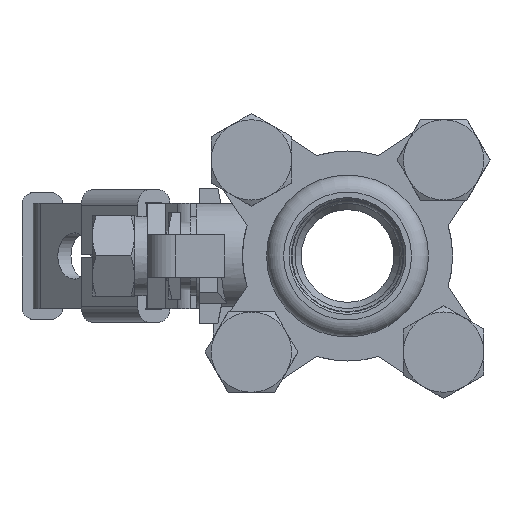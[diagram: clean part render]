
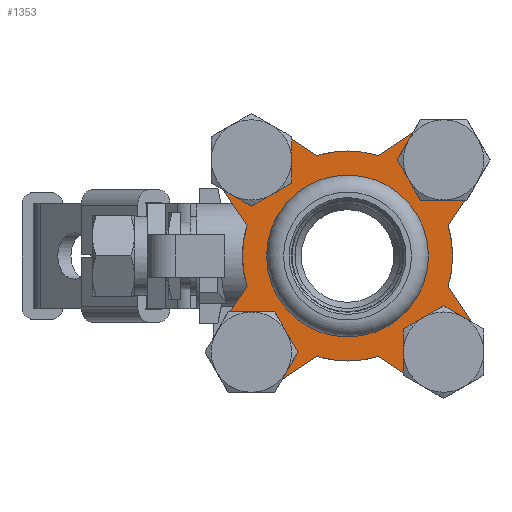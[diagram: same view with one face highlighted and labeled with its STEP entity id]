
A CAD part, front view. The second image highlights one B-rep face of the part: STEP entity #1353.
In plain terms, the highlighted planar face has unit normal (0, -1, 0) as drawn and (0, 0, -1) by its records, which use the part's own axes.
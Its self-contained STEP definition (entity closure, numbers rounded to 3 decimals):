
#1353=ADVANCED_FACE('',(#2604,#2605,#2606,#2607,#2608,#2609),#2610,.T.);
#2604=FACE_OUTER_BOUND('',#3973,.T.);
#2605=FACE_BOUND('',#3974,.T.);
#2606=FACE_BOUND('',#3975,.T.);
#2607=FACE_BOUND('',#3976,.T.);
#2608=FACE_BOUND('',#3977,.T.);
#2609=FACE_BOUND('',#3978,.T.);
#2610=PLANE('',#3979);
#3973=EDGE_LOOP('',(#6165,#6166,#6167,#6168,#6169,#6170,#6171,#6172,#6173,#6174,#6175,#6176,#6177,#6178,#6179,#6180));
#3974=EDGE_LOOP('',(#6181));
#3975=EDGE_LOOP('',(#6182));
#3976=EDGE_LOOP('',(#6183));
#3977=EDGE_LOOP('',(#6184));
#3978=EDGE_LOOP('',(#6185));
#3979=AXIS2_PLACEMENT_3D('',#6186,#6187,#6188);
#6165=ORIENTED_EDGE('',*,*,#8026,.F.);
#6166=ORIENTED_EDGE('',*,*,#8021,.F.);
#6167=ORIENTED_EDGE('',*,*,#8016,.F.);
#6168=ORIENTED_EDGE('',*,*,#8077,.F.);
#6169=ORIENTED_EDGE('',*,*,#8074,.F.);
#6170=ORIENTED_EDGE('',*,*,#8069,.F.);
#6171=ORIENTED_EDGE('',*,*,#8065,.F.);
#6172=ORIENTED_EDGE('',*,*,#8061,.F.);
#6173=ORIENTED_EDGE('',*,*,#8058,.F.);
#6174=ORIENTED_EDGE('',*,*,#8053,.F.);
#6175=ORIENTED_EDGE('',*,*,#8049,.F.);
#6176=ORIENTED_EDGE('',*,*,#8045,.F.);
#6177=ORIENTED_EDGE('',*,*,#8042,.F.);
#6178=ORIENTED_EDGE('',*,*,#8037,.F.);
#6179=ORIENTED_EDGE('',*,*,#8033,.F.);
#6180=ORIENTED_EDGE('',*,*,#8029,.F.);
#6181=ORIENTED_EDGE('',*,*,#8081,.F.);
#6182=ORIENTED_EDGE('',*,*,#8084,.F.);
#6183=ORIENTED_EDGE('',*,*,#8087,.F.);
#6184=ORIENTED_EDGE('',*,*,#8090,.F.);
#6185=ORIENTED_EDGE('',*,*,#8002,.F.);
#6186=CARTESIAN_POINT('',(10.5,0.0,-20.0));
#6187=DIRECTION('',(0.0,0.,-1.0));
#6188=DIRECTION('',(0.0,1.0,0.));
#8002=EDGE_CURVE('',#9346,#9346,#9347,.T.);
#8016=EDGE_CURVE('',#9367,#9368,#9369,.T.);
#8021=EDGE_CURVE('',#9368,#9376,#9377,.T.);
#8026=EDGE_CURVE('',#9376,#9384,#9385,.T.);
#8029=EDGE_CURVE('',#9384,#9388,#9389,.T.);
#8033=EDGE_CURVE('',#9388,#9394,#9395,.T.);
#8037=EDGE_CURVE('',#9394,#9400,#9401,.T.);
#8042=EDGE_CURVE('',#9400,#9408,#9409,.T.);
#8045=EDGE_CURVE('',#9408,#9412,#9413,.T.);
#8049=EDGE_CURVE('',#9412,#9418,#9419,.T.);
#8053=EDGE_CURVE('',#9418,#9424,#9425,.T.);
#8058=EDGE_CURVE('',#9424,#9432,#9433,.T.);
#8061=EDGE_CURVE('',#9432,#9436,#9437,.T.);
#8065=EDGE_CURVE('',#9436,#9442,#9443,.T.);
#8069=EDGE_CURVE('',#9442,#9448,#9449,.T.);
#8074=EDGE_CURVE('',#9448,#9456,#9457,.T.);
#8077=EDGE_CURVE('',#9456,#9367,#9460,.T.);
#8081=EDGE_CURVE('',#9465,#9465,#9466,.T.);
#8084=EDGE_CURVE('',#9470,#9470,#9471,.T.);
#8087=EDGE_CURVE('',#9475,#9475,#9476,.T.);
#8090=EDGE_CURVE('',#9480,#9480,#9481,.T.);
#9346=VERTEX_POINT('',#11548);
#9347=CIRCLE('',#11549,10.5);
#9367=VERTEX_POINT('',#11569);
#9368=VERTEX_POINT('',#11570);
#9369=CIRCLE('',#11571,17.0);
#9376=VERTEX_POINT('',#11580);
#9377=LINE('',#11581,#11582);
#9384=VERTEX_POINT('',#11591);
#9385=CIRCLE('',#11592,6.5);
#9388=VERTEX_POINT('',#11596);
#9389=LINE('',#11597,#11598);
#9394=VERTEX_POINT('',#11605);
#9395=CIRCLE('',#11606,17.);
#9400=VERTEX_POINT('',#11612);
#9401=LINE('',#11613,#11614);
#9408=VERTEX_POINT('',#11623);
#9409=CIRCLE('',#11624,6.5);
#9412=VERTEX_POINT('',#11628);
#9413=LINE('',#11629,#11630);
#9418=VERTEX_POINT('',#11637);
#9419=CIRCLE('',#11638,17.0);
#9424=VERTEX_POINT('',#11644);
#9425=LINE('',#11645,#11646);
#9432=VERTEX_POINT('',#11655);
#9433=CIRCLE('',#11656,6.5);
#9436=VERTEX_POINT('',#11660);
#9437=LINE('',#11661,#11662);
#9442=VERTEX_POINT('',#11669);
#9443=CIRCLE('',#11670,17.0);
#9448=VERTEX_POINT('',#11676);
#9449=LINE('',#11677,#11678);
#9456=VERTEX_POINT('',#11687);
#9457=CIRCLE('',#11688,6.5);
#9460=LINE('',#11692,#11693);
#9465=VERTEX_POINT('',#11699);
#9466=CIRCLE('',#11700,4.15);
#9470=VERTEX_POINT('',#11704);
#9471=CIRCLE('',#11705,4.15);
#9475=VERTEX_POINT('',#11709);
#9476=CIRCLE('',#11710,4.15);
#9480=VERTEX_POINT('',#11714);
#9481=CIRCLE('',#11715,4.15);
#11548=CARTESIAN_POINT('',(0.0,10.5,-20.0));
#11549=AXIS2_PLACEMENT_3D('',#13646,#13647,#13648);
#11569=CARTESIAN_POINT('',(-4.95,-16.263,-20.0));
#11570=CARTESIAN_POINT('',(4.95,-16.263,-20.0));
#11571=AXIS2_PLACEMENT_3D('',#13667,#13668,#13669);
#11580=CARTESIAN_POINT('',(11.933,-20.953,-20.0));
#11581=CARTESIAN_POINT('',(4.95,-16.263,-20.0));
#11582=VECTOR('',#13675,1.0);
#11591=CARTESIAN_POINT('',(20.953,-11.933,-20.0));
#11592=AXIS2_PLACEMENT_3D('',#13681,#13682,#13683);
#11596=CARTESIAN_POINT('',(16.263,-4.95,-20.0));
#11597=CARTESIAN_POINT('',(20.953,-11.933,-20.0));
#11598=VECTOR('',#13685,1.0);
#11605=CARTESIAN_POINT('',(16.263,4.95,-20.0));
#11606=AXIS2_PLACEMENT_3D('',#13688,#13689,#13690);
#11612=CARTESIAN_POINT('',(20.953,11.933,-20.0));
#11613=CARTESIAN_POINT('',(16.263,4.95,-20.0));
#11614=VECTOR('',#13695,1.0);
#11623=CARTESIAN_POINT('',(11.933,20.953,-20.0));
#11624=AXIS2_PLACEMENT_3D('',#13701,#13702,#13703);
#11628=CARTESIAN_POINT('',(4.95,16.263,-20.0));
#11629=CARTESIAN_POINT('',(11.933,20.953,-20.0));
#11630=VECTOR('',#13705,1.0);
#11637=CARTESIAN_POINT('',(-4.95,16.263,-20.0));
#11638=AXIS2_PLACEMENT_3D('',#13708,#13709,#13710);
#11644=CARTESIAN_POINT('',(-11.933,20.953,-20.0));
#11645=CARTESIAN_POINT('',(-4.95,16.263,-20.0));
#11646=VECTOR('',#13715,1.0);
#11655=CARTESIAN_POINT('',(-20.953,11.933,-20.0));
#11656=AXIS2_PLACEMENT_3D('',#13721,#13722,#13723);
#11660=CARTESIAN_POINT('',(-16.263,4.95,-20.0));
#11661=CARTESIAN_POINT('',(-20.953,11.933,-20.0));
#11662=VECTOR('',#13725,1.0);
#11669=CARTESIAN_POINT('',(-16.263,-4.95,-20.0));
#11670=AXIS2_PLACEMENT_3D('',#13728,#13729,#13730);
#11676=CARTESIAN_POINT('',(-20.953,-11.933,-20.0));
#11677=CARTESIAN_POINT('',(-16.263,-4.95,-20.0));
#11678=VECTOR('',#13735,1.0);
#11687=CARTESIAN_POINT('',(-11.933,-20.953,-20.0));
#11688=AXIS2_PLACEMENT_3D('',#13741,#13742,#13743);
#11692=CARTESIAN_POINT('',(-11.933,-20.953,-20.0));
#11693=VECTOR('',#13745,1.0);
#11699=CARTESIAN_POINT('',(15.556,-11.406,-20.0));
#11700=AXIS2_PLACEMENT_3D('',#13750,#13751,#13752);
#11704=CARTESIAN_POINT('',(-15.556,19.706,-20.0));
#11705=AXIS2_PLACEMENT_3D('',#13756,#13757,#13758);
#11709=CARTESIAN_POINT('',(15.556,19.706,-20.0));
#11710=AXIS2_PLACEMENT_3D('',#13762,#13763,#13764);
#11714=CARTESIAN_POINT('',(-15.556,-11.406,-20.0));
#11715=AXIS2_PLACEMENT_3D('',#13768,#13769,#13770);
#13646=CARTESIAN_POINT('',(0.0,0.0,-20.0));
#13647=DIRECTION('',(0.0,0.,-1.0));
#13648=DIRECTION('',(0.0,1.0,0.));
#13667=CARTESIAN_POINT('',(0.,0.,-20.0));
#13668=DIRECTION('',(0.0,0.0,1.0));
#13669=DIRECTION('',(0.0,-1.0,0.0));
#13675=DIRECTION('',(0.83,-0.557,0.0));
#13681=CARTESIAN_POINT('',(15.556,-15.556,-20.0));
#13682=DIRECTION('',(0.0,0.0,1.0));
#13683=DIRECTION('',(0.0,-1.0,0.0));
#13685=DIRECTION('',(-0.557,0.83,0.0));
#13688=CARTESIAN_POINT('',(0.,0.,-20.0));
#13689=DIRECTION('',(0.0,0.0,1.0));
#13690=DIRECTION('',(0.0,-1.0,0.0));
#13695=DIRECTION('',(0.557,0.83,0.0));
#13701=CARTESIAN_POINT('',(15.556,15.556,-20.0));
#13702=DIRECTION('',(0.0,0.0,1.0));
#13703=DIRECTION('',(0.0,-1.0,0.0));
#13705=DIRECTION('',(-0.83,-0.557,0.0));
#13708=CARTESIAN_POINT('',(0.,0.,-20.0));
#13709=DIRECTION('',(0.0,0.0,1.0));
#13710=DIRECTION('',(0.0,-1.0,0.0));
#13715=DIRECTION('',(-0.83,0.557,0.0));
#13721=CARTESIAN_POINT('',(-15.556,15.556,-20.0));
#13722=DIRECTION('',(0.0,0.0,1.0));
#13723=DIRECTION('',(0.0,-1.0,0.0));
#13725=DIRECTION('',(0.557,-0.83,0.0));
#13728=CARTESIAN_POINT('',(0.,0.,-20.0));
#13729=DIRECTION('',(0.0,0.0,1.0));
#13730=DIRECTION('',(0.0,-1.0,0.0));
#13735=DIRECTION('',(-0.557,-0.83,0.0));
#13741=CARTESIAN_POINT('',(-15.556,-15.556,-20.0));
#13742=DIRECTION('',(0.0,0.0,1.0));
#13743=DIRECTION('',(0.0,-1.0,0.0));
#13745=DIRECTION('',(0.83,0.557,0.0));
#13750=CARTESIAN_POINT('',(15.556,-15.556,-20.0));
#13751=DIRECTION('',(0.0,0.0,-1.0));
#13752=DIRECTION('',(0.0,1.0,0.0));
#13756=CARTESIAN_POINT('',(-15.556,15.556,-20.0));
#13757=DIRECTION('',(0.0,0.0,-1.0));
#13758=DIRECTION('',(0.0,1.0,0.0));
#13762=CARTESIAN_POINT('',(15.556,15.556,-20.0));
#13763=DIRECTION('',(0.0,0.0,-1.0));
#13764=DIRECTION('',(0.0,1.0,0.0));
#13768=CARTESIAN_POINT('',(-15.556,-15.556,-20.0));
#13769=DIRECTION('',(0.0,0.0,-1.0));
#13770=DIRECTION('',(0.0,1.0,0.0));
